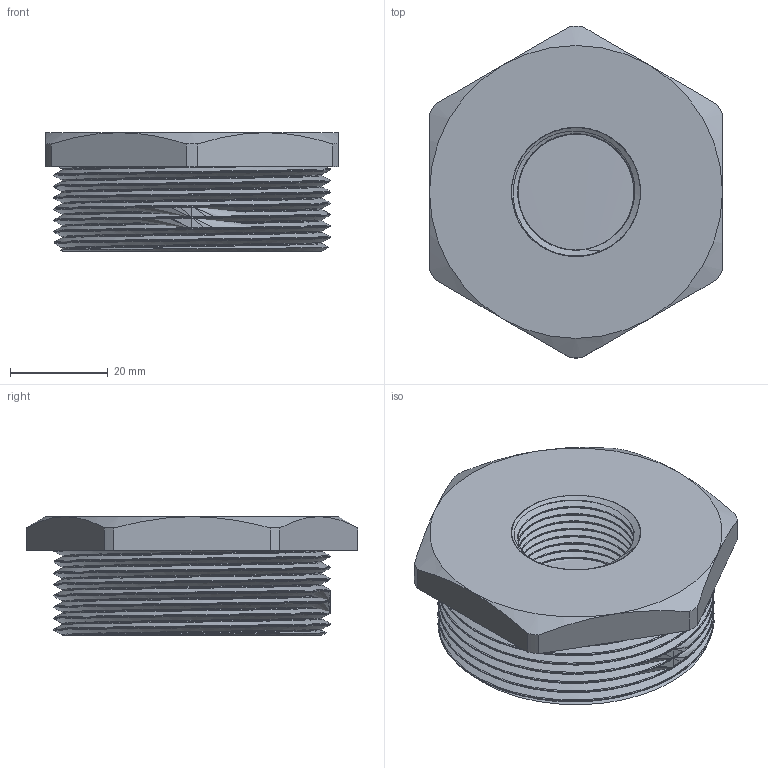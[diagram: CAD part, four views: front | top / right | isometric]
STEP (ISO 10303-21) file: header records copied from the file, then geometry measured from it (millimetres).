
FILE_DESCRIPTION(/* description */ (''),/* implementation_level */ '2;1');
FILE_NAME(/* name */ 'C:\Users\Doom\Desktop\Фадотех\Резьба\PF11 18.03.2020\PF11 18.03.2020.stp',/* time_stamp */ '2022-01-15T23:59:45+02:00',/* author */ ('Doom'),/* organization */ (''),/* preprocessor_version */ 'ST-DEVELOPER v18',/* originating_system */ 'Autodesk Inventor 2020',/* authorisation */ '');
FILE_SCHEMA (('AUTOMOTIVE_DESIGN { 1 0 10303 214 3 1 1 }'));
Length unit declared in the file: millimetre
Products named in the file (1): PF07 18.03.2020
Bounding box: 60 x 68 x 24.3 mm (x, y, z)
Volume: 59162.4 mm3; surface area: 26587.7 mm2
Topology: 3 solids, 3 shells, 70 faces, 185 edges, 121 vertices
Faces by surface type: cylinder 36, plane 13, bspline 12, cone 9
Full cylindrical faces by diameter (mm): 23.75 x14, 26.44 x2, 53.176 x2, 56.6 x8
Entity records: 13423 total; most frequent: CARTESIAN_POINT 11846, ORIENTED_EDGE 366, DIRECTION 246, EDGE_CURVE 183, VERTEX_POINT 120, AXIS2_PLACEMENT_3D 100, B_SPLINE_CURVE_WITH_KNOTS 84, EDGE_LOOP 77
